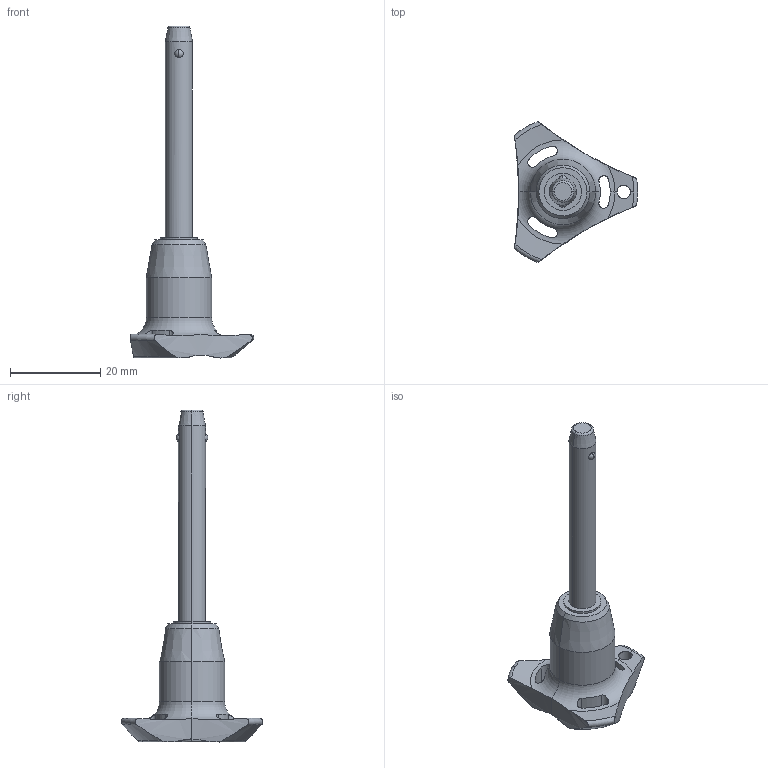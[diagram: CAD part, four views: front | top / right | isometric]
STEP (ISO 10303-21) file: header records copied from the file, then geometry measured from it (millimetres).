
FILE_DESCRIPTION (( 'STEP AP203' ), '1' );
FILE_NAME ('QR1724.M06-040-S.step', '2025-11-12T12:46:25', ( '' ), ( '' ), 'SwSTEP 2.0', 'SolidWorks 2019', '' );
FILE_SCHEMA (( 'CONFIG_CONTROL_DESIGN' ));
Length unit declared in the file: millimetre
Products named in the file (1): QR1724.M06-040-S
Bounding box: 27.4 x 31.31 x 73.7 mm (x, y, z)
Volume: 6097.1 mm3; surface area: 3306.8 mm2
Topology: 1 solids, 1 shells, 66 faces, 181 edges, 115 vertices
Faces by surface type: cylinder 30, cone 14, torus 12, sphere 6, plane 4
Entity records: 2709 total; most frequent: CARTESIAN_POINT 997, ORIENTED_EDGE 362, DIRECTION 332, EDGE_CURVE 181, AXIS2_PLACEMENT_3D 148, VERTEX_POINT 115, CIRCLE 81, EDGE_LOOP 72
